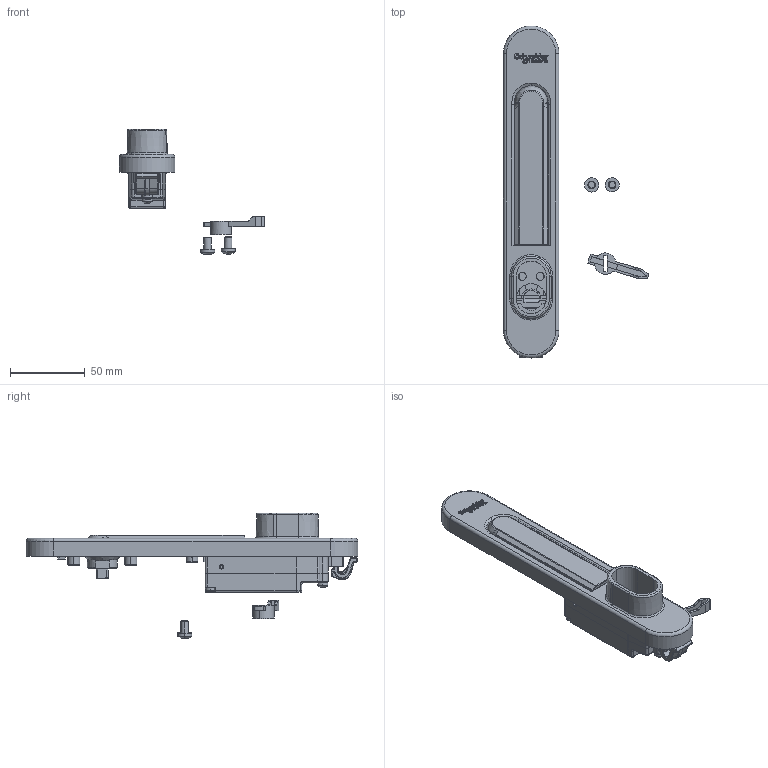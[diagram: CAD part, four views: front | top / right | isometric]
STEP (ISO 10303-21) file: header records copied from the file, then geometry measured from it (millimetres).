
FILE_DESCRIPTION(('STEP AP203'),'1');
FILE_NAME('07933.stp','2021-04-21T18:37:58',('TraceParts'),('TraceParts S.A.'),'Spatial InterOp 3D',' ',' ');
FILE_SCHEMA(('CONFIG_CONTROL_DESIGN'));
Length unit declared in the file: millimetre
Products named in the file (1): 1
Bounding box: 96.78 x 221.5 x 83.61 mm (x, y, z)
Volume: 95397 mm3; surface area: 71032.2 mm2
Topology: 18 solids, 18 shells, 2987 faces, 8078 edges, 5188 vertices
Faces by surface type: plane 1769, cylinder 690, bspline 199, torus 133, cone 102, sphere 94
Entity records: 126299 total; most frequent: CARTESIAN_POINT 51988, ORIENTED_EDGE 16090, DIRECTION 14674, EDGE_CURVE 8045, LINE 5390, VECTOR 5390, VERTEX_POINT 5187, AXIS2_PLACEMENT_3D 4642
